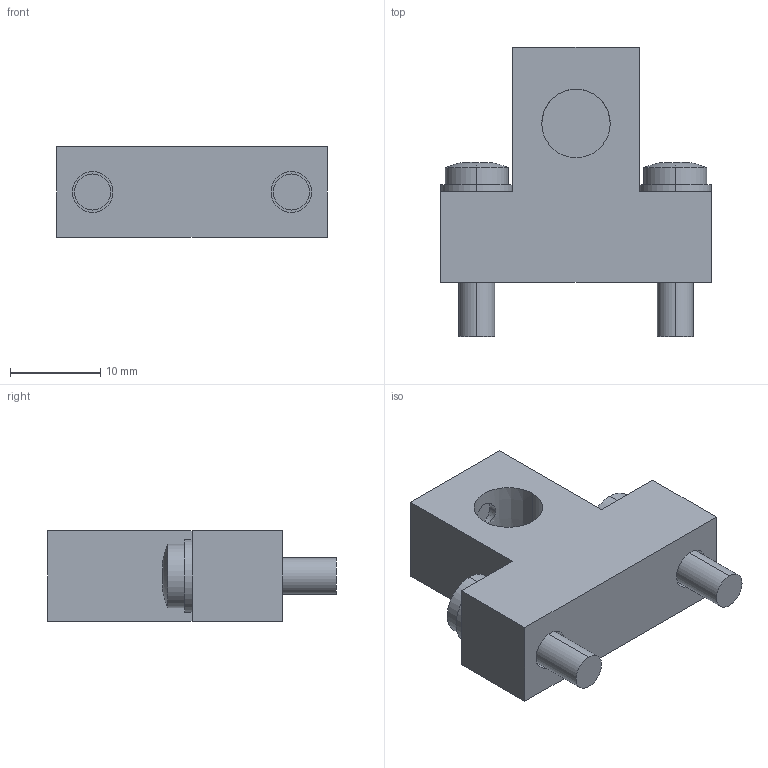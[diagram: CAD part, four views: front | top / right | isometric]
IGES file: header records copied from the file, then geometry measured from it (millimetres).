
Start section: SolidWorks IGES FILE using analytic representation for surfaces
Global section: file name: \\Intra-srv04\開発データ\CAD_Data\CAD委員会\3D電子ｶﾀﾛｸﾞ\製品カタログ（新）\0_IGES\ER-ABH.IGS,41HSolidWorks 2004; native system: by SolidWorks Corporation; preprocessor: Version 5.3; author: YK0651; date: 050909.123629; units: millimetre
Bounding box: 30 x 32 x 10 mm (x, y, z)
Volume: 5221.4 mm3; surface area: 3415.3 mm2
Topology: 4 solids, 4 shells, 66 faces, 148 edges, 96 vertices
Faces by surface type: plane 40, revolution 26
